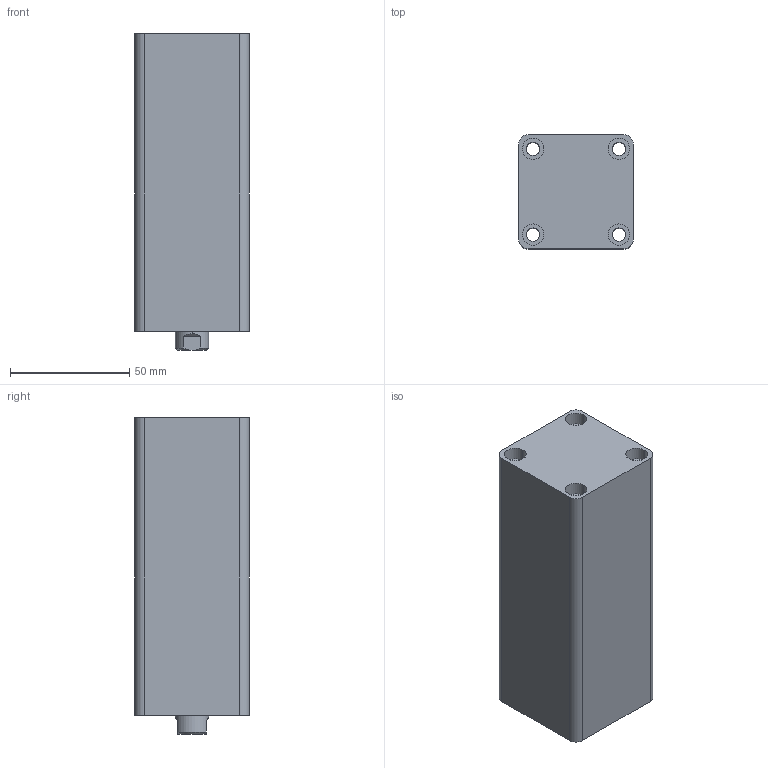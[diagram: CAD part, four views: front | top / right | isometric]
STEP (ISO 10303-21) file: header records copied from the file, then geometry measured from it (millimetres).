
FILE_DESCRIPTION (( 'STEP AP203' ), '1' );
FILE_NAME ('HTB-SD25-80N.STEP', '2019-10-07T06:19:41', ( '微软用户' ), ( '微软中国' ), 'SwSTEP 2.0', 'SolidWorks 2012', '' );
FILE_SCHEMA (( 'CONFIG_CONTROL_DESIGN' ));
Length unit declared in the file: millimetre
Products named in the file (3): HTB-SD25-80N; HTB-SD25-80掛极; HTB-SD25-80N活塞杆
Assembly tree (2 placements, depth 2):
  HTB-SD25-80N
    HTB-SD25-80掛极
    HTB-SD25-80N活塞杆
Bounding box: 48 x 48 x 133 mm (x, y, z)
Volume: 244548.9 mm3; surface area: 53690.9 mm2
Topology: 2 solids, 2 shells, 83 faces, 182 edges, 117 vertices
Faces by surface type: cylinder 42, plane 27, cone 8, torus 6
Entity records: 2653 total; most frequent: DIRECTION 454, CARTESIAN_POINT 429, ORIENTED_EDGE 360, AXIS2_PLACEMENT_3D 194, EDGE_CURVE 180, VERTEX_POINT 117, EDGE_LOOP 107, CIRCLE 106
